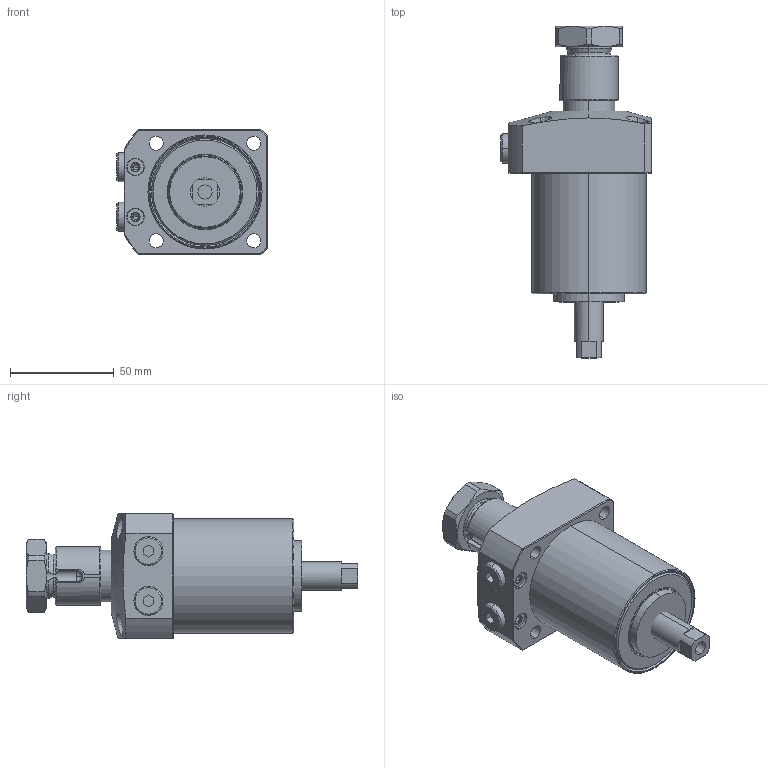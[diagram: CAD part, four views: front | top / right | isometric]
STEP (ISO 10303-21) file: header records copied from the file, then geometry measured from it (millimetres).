
FILE_DESCRIPTION (( 'STEP AP203' ), '1' );
FILE_NAME ('20450-CR-D.STEP', '2019-06-24T03:03:23', ( '微软用户' ), ( '微软中国' ), 'SwSTEP 2.0', 'SolidWorks 2014', '' );
FILE_SCHEMA (( 'CONFIG_CONTROL_DESIGN' ));
Length unit declared in the file: millimetre
Products named in the file (7): 20450-1^20450-CR-D; 20450-2^20450-CR-D; 20450-3^20450-CR-D; 20450-4^20450-CR-D; 20450-5^20450-CR-D; 20450-C-P-4^20450-CR-D; 20450-CR-D
Assembly tree (7 placements, depth 2):
  20450-CR-D
    20450-1^20450-CR-D
    20450-2^20450-CR-D
    20450-3^20450-CR-D
    20450-4^20450-CR-D
    20450-5^20450-CR-D
    20450-C-P-4^20450-CR-D  x2
Bounding box: 72.5 x 160 x 60 mm (x, y, z)
Volume: 294959.7 mm3; surface area: 48378.3 mm2
Topology: 7 solids, 7 shells, 242 faces, 573 edges, 363 vertices
Faces by surface type: plane 88, cylinder 81, cone 53, torus 18, sphere 2
Entity records: 8244 total; most frequent: CARTESIAN_POINT 2125, DIRECTION 1169, ORIENTED_EDGE 1086, EDGE_CURVE 543, AXIS2_PLACEMENT_3D 475, VERTEX_POINT 345, EDGE_LOOP 262, CIRCLE 236
